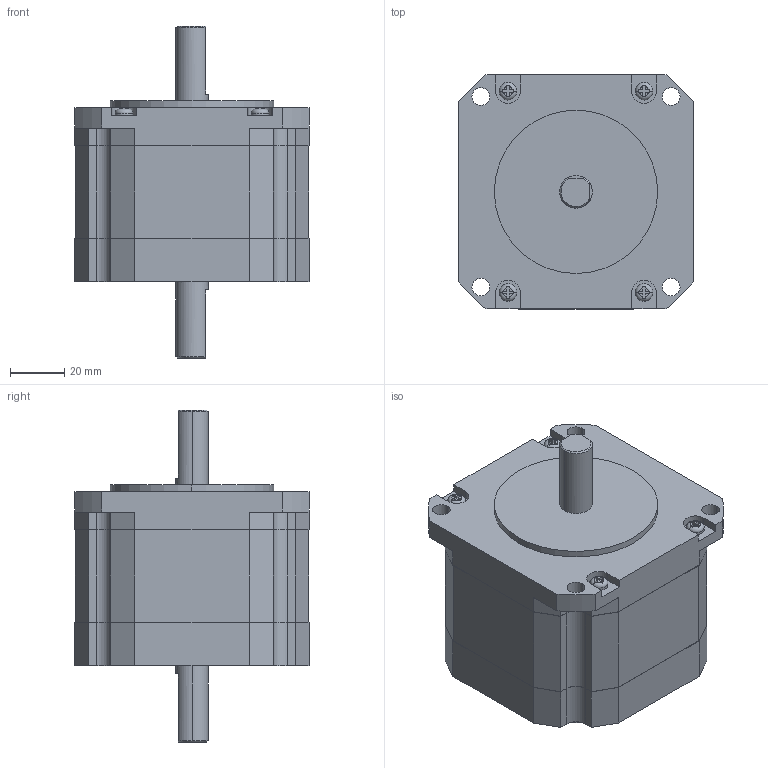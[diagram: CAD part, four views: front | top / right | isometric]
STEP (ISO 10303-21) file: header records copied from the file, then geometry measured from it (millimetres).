
FILE_DESCRIPTION (( 'STEP AP214' ), '1' );
FILE_NAME ('TS3630N21.STEP', '2011-09-15T09:02:52', ( '' ), ( '' ), 'SwSTEP 2.0', 'SolidWorks 2010', '' );
FILE_SCHEMA (( 'AUTOMOTIVE_DESIGN' ));
Length unit declared in the file: millimetre
Products named in the file (1): TS3630N21
Bounding box: 86 x 86 x 122 mm (x, y, z)
Volume: 434936.4 mm3; surface area: 37425.5 mm2
Topology: 1 solids, 1 shells, 218 faces, 608 edges, 401 vertices
Faces by surface type: plane 143, cylinder 62, torus 8, cone 5
Entity records: 7411 total; most frequent: CARTESIAN_POINT 1412, ORIENTED_EDGE 1216, DIRECTION 1171, EDGE_CURVE 608, LINE 403, VECTOR 403, VERTEX_POINT 401, AXIS2_PLACEMENT_3D 384
